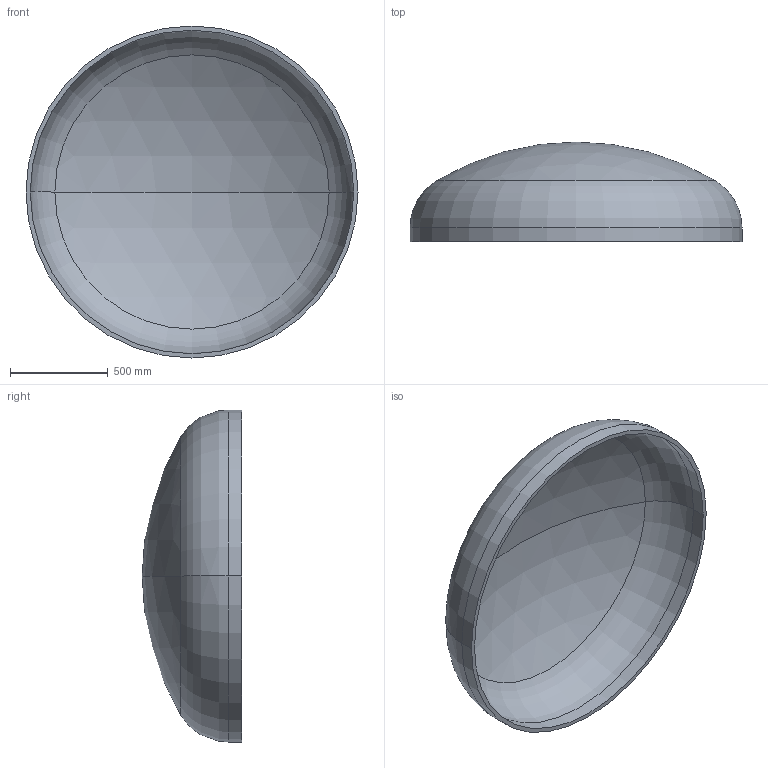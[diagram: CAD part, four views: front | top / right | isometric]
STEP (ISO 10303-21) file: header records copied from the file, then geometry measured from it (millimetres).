
FILE_DESCRIPTION (( 'STEP AP203' ), '1' );
FILE_NAME ('DIN 28013 Korbbogenform_-_Boden DIN 28013 - 1700 x 70 - I - s=22.step', '2016-07-01T11:41:17', ( '' ), ( '' ), 'SwSTEP 2.0', 'SolidWorks 2013', '' );
FILE_SCHEMA (( 'CONFIG_CONTROL_DESIGN' ));
Length unit declared in the file: millimetre
Products named in the file (1): DIN 28013 Korbbogenform_-_Boden DIN 28013 - 1700 x 70 - I - s=22
Bounding box: 1700 x 509.99 x 1700 mm (x, y, z)
Volume: 76013402.5 mm3; surface area: 7027295.6 mm2
Topology: 1 solids, 1 shells, 13 faces, 24 edges, 14 vertices
Faces by surface type: torus 4, cylinder 4, sphere 4, plane 1
Entity records: 407 total; most frequent: DIRECTION 72, CARTESIAN_POINT 52, ORIENTED_EDGE 48, AXIS2_PLACEMENT_3D 34, EDGE_CURVE 24, CIRCLE 20, VERTEX_POINT 14, EDGE_LOOP 14
